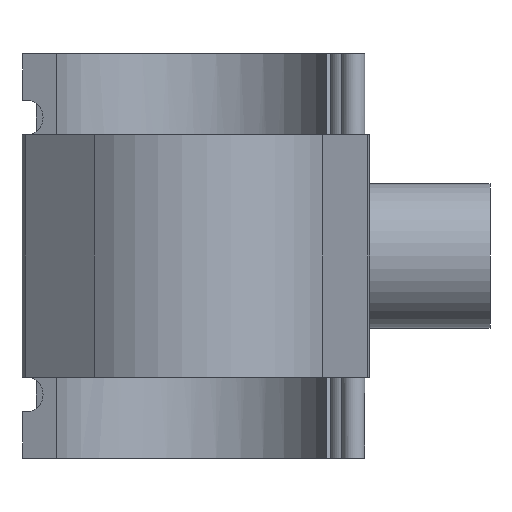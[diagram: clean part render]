
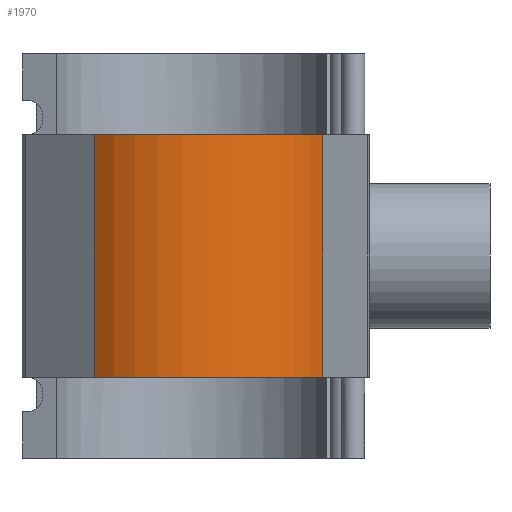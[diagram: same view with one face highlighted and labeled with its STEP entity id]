
A CAD part, front view. The second image highlights one B-rep face of the part: STEP entity #1970.
In plain terms, the highlighted cylindrical face has radius 64.375 mm (diameter 128.75 mm), a partial arc.
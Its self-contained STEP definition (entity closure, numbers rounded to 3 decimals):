
#222=FACE_OUTER_BOUND('',#349,.T.);
#349=EDGE_LOOP('',(#1804,#1805,#1806,#1807));
#449=CIRCLE('',#2183,64.375);
#452=CIRCLE('',#2187,64.375);
#614=LINE('',#3937,#772);
#618=LINE('',#3946,#776);
#772=VECTOR('',#2768,10.);
#776=VECTOR('',#2782,10.);
#957=VERTEX_POINT('',#3900);
#958=VERTEX_POINT('',#3902);
#961=VERTEX_POINT('',#3910);
#962=VERTEX_POINT('',#3912);
#1227=EDGE_CURVE('',#957,#958,#449,.T.);
#1232=EDGE_CURVE('',#961,#962,#452,.T.);
#1246=EDGE_CURVE('',#961,#958,#614,.T.);
#1250=EDGE_CURVE('',#957,#962,#618,.T.);
#1804=ORIENTED_EDGE('',*,*,#1250,.T.);
#1805=ORIENTED_EDGE('',*,*,#1232,.F.);
#1806=ORIENTED_EDGE('',*,*,#1246,.T.);
#1807=ORIENTED_EDGE('',*,*,#1227,.F.);
#1864=CYLINDRICAL_SURFACE('',#2202,64.375);
#1970=ADVANCED_FACE('',(#222),#1864,.T.);
#2183=AXIS2_PLACEMENT_3D('',#3903,#2730,#2731);
#2187=AXIS2_PLACEMENT_3D('',#3913,#2740,#2741);
#2202=AXIS2_PLACEMENT_3D('',#3947,#2783,#2784);
#2730=DIRECTION('center_axis',(0.,0.,-1.));
#2731=DIRECTION('ref_axis',(0.658,0.753,0.));
#2740=DIRECTION('center_axis',(0.,0.,1.));
#2741=DIRECTION('ref_axis',(0.658,0.753,0.));
#2768=DIRECTION('',(0.,0.,-1.));
#2782=DIRECTION('',(0.,0.,1.));
#2783=DIRECTION('center_axis',(0.,0.,1.));
#2784=DIRECTION('ref_axis',(0.658,0.753,0.));
#3900=CARTESIAN_POINT('',(57.13,-29.67,-52.8));
#3902=CARTESIAN_POINT('',(-42.381,-48.456,-52.8));
#3903=CARTESIAN_POINT('Origin',(0.,0.,
-52.8));
#3910=CARTESIAN_POINT('',(-42.381,-48.456,52.8));
#3912=CARTESIAN_POINT('',(57.13,-29.67,52.8));
#3913=CARTESIAN_POINT('Origin',(0.,0.,
52.8));
#3937=CARTESIAN_POINT('',(-42.381,-48.456,0.));
#3946=CARTESIAN_POINT('',(57.13,-29.67,0.));
#3947=CARTESIAN_POINT('Origin',(0.,0.,
0.));
